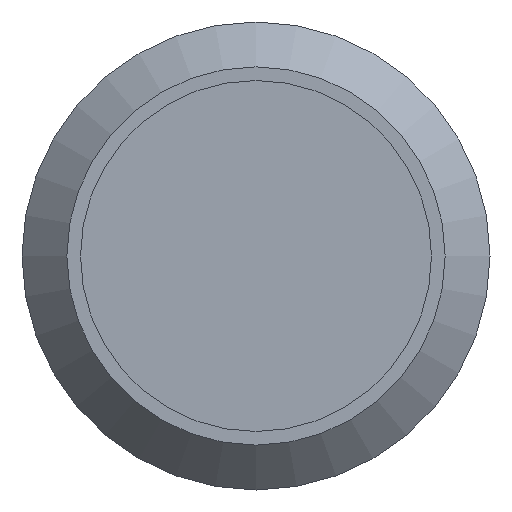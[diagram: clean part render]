
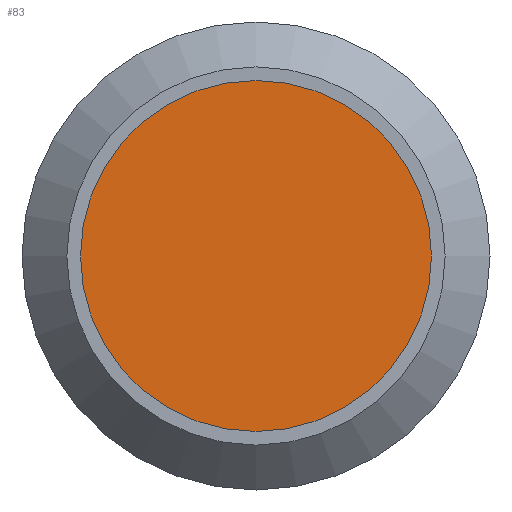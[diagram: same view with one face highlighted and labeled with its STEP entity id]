
A CAD part, front view. The second image highlights one B-rep face of the part: STEP entity #83.
In plain terms, the highlighted planar face has unit normal (0, -1, 0).
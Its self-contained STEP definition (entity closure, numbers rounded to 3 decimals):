
#83 = ADVANCED_FACE( '', ( #107 ), #108, .F. );
#107 = FACE_OUTER_BOUND( '', #141, .T. );
#108 = PLANE( '', #142 );
#141 = EDGE_LOOP( '', ( #219 ) );
#142 = AXIS2_PLACEMENT_3D( '', #220, #221, #222 );
#219 = ORIENTED_EDGE( '', *, *, #267, .T. );
#220 = CARTESIAN_POINT( '', ( 3., 0., 0. ) );
#221 = DIRECTION( '', ( 0., 1., 0. ) );
#222 = DIRECTION( '', ( 0., 0., 1. ) );
#267 = EDGE_CURVE( '', #304, #304, #305, .T. );
#304 = VERTEX_POINT( '', #364 );
#305 = CIRCLE( '', #365, 3. );
#364 = CARTESIAN_POINT( '', ( 0., 0., -3. ) );
#365 = AXIS2_PLACEMENT_3D( '', #395, #396, #397 );
#395 = CARTESIAN_POINT( '', ( 0., 0., 0. ) );
#396 = DIRECTION( '', ( 0., -1., 0. ) );
#397 = DIRECTION( '', ( 0., 0., -1. ) );
